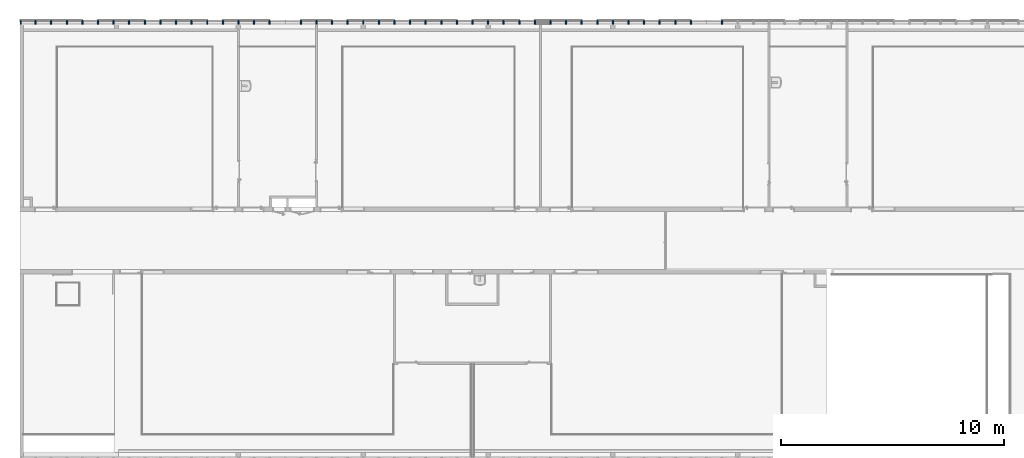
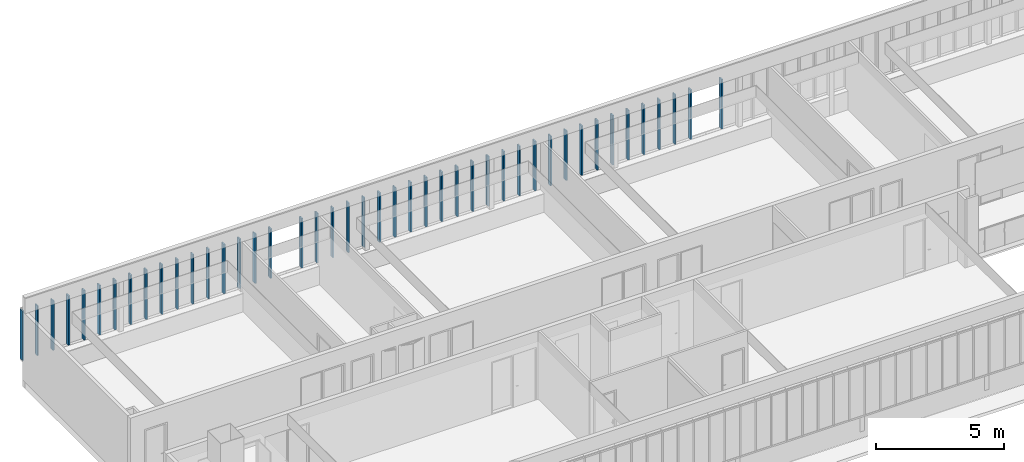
# One storey, part 4 of 87: 44 members, 1 element without a shape of its own.
"""IFC2X3 building model written with IfcOpenShell, lengths in centimetres."""

from ifc_helpers import new_model, entity, si_unit, converted_unit, derived_unit, direction, frame, origin, place, context, subcontext, project, spatial, polyline, outline, extrude, source, transform, mapped, material, type_object, type_shapes, element, aggregate, save


model = new_model("IFC2X3")

# Units and contexts
model_context = context("Model", 3, precision=0.001, world=origin(), true_north=direction((6.12303176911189e-17, 1.0)))
body_context = subcontext(model_context, "Body", "Model", "MODEL_VIEW")
ifc_project = project(units=[si_unit("LENGTHUNIT", "METRE", prefix="CENTI"), si_unit("AREAUNIT", "SQUARE_METRE"), si_unit("VOLUMEUNIT", "CUBIC_METRE"), converted_unit("PLANEANGLEUNIT", "DEGREE", entity("IfcRatioMeasure", 0.0174532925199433), si_unit("PLANEANGLEUNIT", "RADIAN"), dimensions=[0, 0, 0, 0, 0, 0, 0]), si_unit("MASSUNIT", "GRAM", prefix="KILO"), derived_unit("MASSDENSITYUNIT", [(si_unit("MASSUNIT", "GRAM", prefix="KILO"), 1), (si_unit("LENGTHUNIT", "METRE"), -3)]), si_unit("TIMEUNIT", "SECOND"), si_unit("FREQUENCYUNIT", "HERTZ"), si_unit("THERMODYNAMICTEMPERATUREUNIT", "DEGREE_CELSIUS"), derived_unit("THERMALTRANSMITTANCEUNIT", [(si_unit("MASSUNIT", "GRAM", prefix="KILO"), 1), (si_unit("THERMODYNAMICTEMPERATUREUNIT", "KELVIN"), -1), (si_unit("TIMEUNIT", "SECOND"), -3)]), derived_unit("VOLUMETRICFLOWRATEUNIT", [(si_unit("LENGTHUNIT", "METRE"), 3), (si_unit("TIMEUNIT", "SECOND"), -1)]), si_unit("ELECTRICCURRENTUNIT", "AMPERE"), si_unit("ELECTRICVOLTAGEUNIT", "VOLT"), si_unit("POWERUNIT", "WATT"), si_unit("FORCEUNIT", "NEWTON", prefix="KILO"), si_unit("ILLUMINANCEUNIT", "LUX"), si_unit("LUMINOUSFLUXUNIT", "LUMEN"), si_unit("LUMINOUSINTENSITYUNIT", "CANDELA"), derived_unit("USERDEFINED", [(si_unit("MASSUNIT", "GRAM", prefix="KILO"), -1), (si_unit("LENGTHUNIT", "METRE"), -2), (si_unit("TIMEUNIT", "SECOND"), 3), (si_unit("LUMINOUSFLUXUNIT", "LUMEN"), 1)]), derived_unit("LINEARVELOCITYUNIT", [(si_unit("LENGTHUNIT", "METRE"), 1), (si_unit("TIMEUNIT", "SECOND"), -1)]), si_unit("PRESSUREUNIT", "PASCAL"), derived_unit("USERDEFINED", [(si_unit("LENGTHUNIT", "METRE"), -2), (si_unit("MASSUNIT", "GRAM", prefix="KILO"), 1), (si_unit("TIMEUNIT", "SECOND"), -2)])], contexts=[model_context])

# Site, building, storey
site_placement = place(None, frame((-2781.94577612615, 7442.24238424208, 0.0)))
site = spatial("IfcSite", under=ifc_project, at=site_placement, Name="Default", CompositionType="ELEMENT")
building_placement = place(site_placement, origin())
building = spatial("IfcBuilding", under=site, at=building_placement, CompositionType="ELEMENT")
storey_placement = place(building_placement, frame((0.0, 0.0, 774.0)))
storey = spatial("IfcBuildingStorey", under=building, at=storey_placement, Name="TR - N02 - ARCH", CompositionType="ELEMENT", Elevation=774.0)

# Curtain wall, members
curtain_wall_type = type_object("IfcCurtainWallType", Name="Mur-rideau:07 - mur rideau trame 70cm", PredefinedType="NOTDEFINED")
curtain_wall_placement = place(storey_placement, frame((0.0, 0.0, -774.0)))
curtain_wall = element("IfcCurtainWall", 1, at=curtain_wall_placement, inside=storey, type_object=curtain_wall_type, Name="Mur-rideau:07 - mur rideau trame 70cm", ObjectType="Mur-rideau:07 - mur rideau trame 70cm")
ifc_material = material(Name="Aluminium")
member_type_1 = type_object("IfcMemberType", Name="150 x 25mm Détails", PredefinedType="MEMBER")
shared_shape_1 = source(origin(), body_context, "Body", "SweptSolid", [
    extrude(outline(polyline([(-5.6666666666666, -3.24999999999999), (-3.66666666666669, -3.24999999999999), (-3.66666666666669, -0.868749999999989), (-0.166666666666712, -0.868749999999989), (-0.166666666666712, -3.25000000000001), (13.3333333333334, -3.25000000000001), (13.3333333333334, 3.24999999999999), (-0.16666666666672, 3.24999999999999), (-0.16666666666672, 0.868749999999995), (-3.66666666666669, 0.868749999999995), (-3.66666666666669, 3.25), (-5.6666666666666, 3.25), (-5.6666666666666, -3.24999999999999)])), frame((-3.24999999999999, -1.96666666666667, -236.0), z_axis=(0.0, 0.0, 1.0), x_axis=(0.0, -1.0, 0.0)), (0.0, 0.0, 1.0), 236.0),
])
type_shapes(member_type_1, [shared_shape_1])
member_1_placement = place(storey_placement, frame((-8409.49987766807, 26.200000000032, 90.0), z_axis=(0.0, 0.0, -1.0), x_axis=(-1.0, 0.0, 0.0)))
member_1 = element("IfcMember", 2, at=member_1_placement, type_object=member_type_1, material=ifc_material, Name="Meneau rectangulaire:150 x 25mm Détails", ObjectType="Meneau rectangulaire:150 x 25mm Détails", context=body_context, shape_type="MappedRepresentation", body=[
    mapped(shared_shape_1, transform((0.0, 0.0, 0.0), scale=1.0)),
])
member_type_2 = type_object("IfcMemberType", Name="150 x 25mm Détails", PredefinedType="MEMBER")
shared_shape_2 = source(origin(), body_context, "Body", "SweptSolid", [
    extrude(outline(polyline([(-5.66666666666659, -3.24999999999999), (-3.66666666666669, -3.24999999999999), (-3.66666666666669, -0.86874999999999), (-0.166666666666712, -0.86874999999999), (-0.166666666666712, -3.25000000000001), (13.3333333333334, -3.25000000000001), (13.3333333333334, 3.24999999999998), (-0.166666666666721, 3.24999999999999), (-0.166666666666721, 0.868749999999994), (-3.66666666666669, 0.868749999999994), (-3.66666666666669, 3.25), (-5.66666666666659, 3.25), (-5.66666666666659, -3.24999999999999)])), frame((0.0, -1.96666666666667, -236.0), z_axis=(0.0, 0.0, 1.0), x_axis=(0.0, -1.0, 0.0)), (0.0, 0.0, 1.0), 236.0),
])
type_shapes(member_type_2, [shared_shape_2])
member_2_placement = place(storey_placement, frame((-5259.4998776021, 26.2000000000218, 90.0), z_axis=(0.0, 0.0, -1.0), x_axis=(-1.0, 0.0, 0.0)))
member_2 = element("IfcMember", 3, at=member_2_placement, type_object=member_type_2, material=ifc_material, Name="Meneau rectangulaire:150 x 25mm Détails", ObjectType="Meneau rectangulaire:150 x 25mm Détails", context=body_context, shape_type="MappedRepresentation", body=[
    mapped(shared_shape_2, transform((0.0, 0.0, 0.0), scale=1.0)),
])
member_3_placement = place(storey_placement, frame((-5399.4998776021, 26.2000000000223, 90.0), z_axis=(0.0, 0.0, -1.0), x_axis=(-1.0, 0.0, 0.0)))
member_3 = element("IfcMember", 4, at=member_3_placement, type_object=member_type_2, material=ifc_material, Name="Meneau rectangulaire:150 x 25mm Détails", ObjectType="Meneau rectangulaire:150 x 25mm Détails", context=body_context, shape_type="MappedRepresentation", body=[
    mapped(shared_shape_2, transform((0.0, 0.0, 0.0), scale=1.0)),
])
member_4_placement = place(storey_placement, frame((-5469.4998776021, 26.2000000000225, 90.0), z_axis=(0.0, 0.0, -1.0), x_axis=(-1.0, 0.0, 0.0)))
member_4 = element("IfcMember", 5, at=member_4_placement, type_object=member_type_2, material=ifc_material, Name="Meneau rectangulaire:150 x 25mm Détails", ObjectType="Meneau rectangulaire:150 x 25mm Détails", context=body_context, shape_type="MappedRepresentation", body=[
    mapped(shared_shape_2, transform((0.0, 0.0, 0.0), scale=1.0)),
])
member_5_placement = place(storey_placement, frame((-5539.4998776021, 26.2000000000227, 90.0), z_axis=(0.0, 0.0, -1.0), x_axis=(-1.0, 0.0, 0.0)))
member_5 = element("IfcMember", 6, at=member_5_placement, type_object=member_type_2, material=ifc_material, Name="Meneau rectangulaire:150 x 25mm Détails", ObjectType="Meneau rectangulaire:150 x 25mm Détails", context=body_context, shape_type="MappedRepresentation", body=[
    mapped(shared_shape_2, transform((0.0, 0.0, 0.0), scale=1.0)),
])
member_6_placement = place(storey_placement, frame((-5609.4998776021, 26.200000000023, 90.0), z_axis=(0.0, 0.0, -1.0), x_axis=(-1.0, 0.0, 0.0)))
member_6 = element("IfcMember", 7, at=member_6_placement, type_object=member_type_2, material=ifc_material, Name="Meneau rectangulaire:150 x 25mm Détails", ObjectType="Meneau rectangulaire:150 x 25mm Détails", context=body_context, shape_type="MappedRepresentation", body=[
    mapped(shared_shape_2, transform((0.0, 0.0, 0.0), scale=1.0)),
])
member_7_placement = place(storey_placement, frame((-5679.49987760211, 26.2000000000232, 90.0), z_axis=(0.0, 0.0, -1.0), x_axis=(-1.0, 0.0, 0.0)))
member_7 = element("IfcMember", 8, at=member_7_placement, type_object=member_type_2, material=ifc_material, Name="Meneau rectangulaire:150 x 25mm Détails", ObjectType="Meneau rectangulaire:150 x 25mm Détails", context=body_context, shape_type="MappedRepresentation", body=[
    mapped(shared_shape_2, transform((0.0, 0.0, 0.0), scale=1.0)),
])
member_8_placement = place(storey_placement, frame((-5749.4998776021, 26.2000000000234, 90.0), z_axis=(0.0, 0.0, -1.0), x_axis=(-1.0, 0.0, 0.0)))
member_8 = element("IfcMember", 9, at=member_8_placement, type_object=member_type_2, material=ifc_material, Name="Meneau rectangulaire:150 x 25mm Détails", ObjectType="Meneau rectangulaire:150 x 25mm Détails", context=body_context, shape_type="MappedRepresentation", body=[
    mapped(shared_shape_2, transform((0.0, 0.0, 0.0), scale=1.0)),
])
member_9_placement = place(storey_placement, frame((-5819.4998776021, 26.2000000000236, 90.0), z_axis=(0.0, 0.0, -1.0), x_axis=(-1.0, 0.0, 0.0)))
member_9 = element("IfcMember", 10, at=member_9_placement, type_object=member_type_2, material=ifc_material, Name="Meneau rectangulaire:150 x 25mm Détails", ObjectType="Meneau rectangulaire:150 x 25mm Détails", context=body_context, shape_type="MappedRepresentation", body=[
    mapped(shared_shape_2, transform((0.0, 0.0, 0.0), scale=1.0)),
])
member_10_placement = place(storey_placement, frame((-5889.4998776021, 26.2000000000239, 90.0), z_axis=(0.0, 0.0, -1.0), x_axis=(-1.0, 0.0, 0.0)))
member_10 = element("IfcMember", 11, at=member_10_placement, type_object=member_type_2, material=ifc_material, Name="Meneau rectangulaire:150 x 25mm Détails", ObjectType="Meneau rectangulaire:150 x 25mm Détails", context=body_context, shape_type="MappedRepresentation", body=[
    mapped(shared_shape_2, transform((0.0, 0.0, 0.0), scale=1.0)),
])
member_11_placement = place(storey_placement, frame((-5959.4998776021, 26.2000000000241, 90.0), z_axis=(0.0, 0.0, -1.0), x_axis=(-1.0, 0.0, 0.0)))
member_11 = element("IfcMember", 12, at=member_11_placement, type_object=member_type_2, material=ifc_material, Name="Meneau rectangulaire:150 x 25mm Détails", ObjectType="Meneau rectangulaire:150 x 25mm Détails", context=body_context, shape_type="MappedRepresentation", body=[
    mapped(shared_shape_2, transform((0.0, 0.0, 0.0), scale=1.0)),
])
member_12_placement = place(storey_placement, frame((-6029.49987760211, 26.2000000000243, 90.0), z_axis=(0.0, 0.0, -1.0), x_axis=(-1.0, 0.0, 0.0)))
member_12 = element("IfcMember", 13, at=member_12_placement, type_object=member_type_2, material=ifc_material, Name="Meneau rectangulaire:150 x 25mm Détails", ObjectType="Meneau rectangulaire:150 x 25mm Détails", context=body_context, shape_type="MappedRepresentation", body=[
    mapped(shared_shape_2, transform((0.0, 0.0, 0.0), scale=1.0)),
])
member_13_placement = place(storey_placement, frame((-6099.4998776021, 26.2000000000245, 90.0), z_axis=(0.0, 0.0, -1.0), x_axis=(-1.0, 0.0, 0.0)))
member_13 = element("IfcMember", 14, at=member_13_placement, type_object=member_type_2, material=ifc_material, Name="Meneau rectangulaire:150 x 25mm Détails", ObjectType="Meneau rectangulaire:150 x 25mm Détails", context=body_context, shape_type="MappedRepresentation", body=[
    mapped(shared_shape_2, transform((0.0, 0.0, 0.0), scale=1.0)),
])
member_14_placement = place(storey_placement, frame((-6169.4998776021, 26.2000000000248, 90.0), z_axis=(0.0, 0.0, -1.0), x_axis=(-1.0, 0.0, 0.0)))
member_14 = element("IfcMember", 15, at=member_14_placement, type_object=member_type_2, material=ifc_material, Name="Meneau rectangulaire:150 x 25mm Détails", ObjectType="Meneau rectangulaire:150 x 25mm Détails", context=body_context, shape_type="MappedRepresentation", body=[
    mapped(shared_shape_2, transform((0.0, 0.0, 0.0), scale=1.0)),
])
member_15_placement = place(storey_placement, frame((-6239.49987760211, 26.200000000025, 90.0), z_axis=(0.0, 0.0, -1.0), x_axis=(-1.0, 0.0, 0.0)))
member_15 = element("IfcMember", 16, at=member_15_placement, type_object=member_type_2, material=ifc_material, Name="Meneau rectangulaire:150 x 25mm Détails", ObjectType="Meneau rectangulaire:150 x 25mm Détails", context=body_context, shape_type="MappedRepresentation", body=[
    mapped(shared_shape_2, transform((0.0, 0.0, 0.0), scale=1.0)),
])
member_16_placement = place(storey_placement, frame((-6309.49987760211, 26.2000000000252, 90.0), z_axis=(0.0, 0.0, -1.0), x_axis=(-1.0, 0.0, 0.0)))
member_16 = element("IfcMember", 17, at=member_16_placement, type_object=member_type_2, material=ifc_material, Name="Meneau rectangulaire:150 x 25mm Détails", ObjectType="Meneau rectangulaire:150 x 25mm Détails", context=body_context, shape_type="MappedRepresentation", body=[
    mapped(shared_shape_2, transform((0.0, 0.0, 0.0), scale=1.0)),
])
member_17_placement = place(storey_placement, frame((-6379.49987760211, 26.2000000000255, 90.0), z_axis=(0.0, 0.0, -1.0), x_axis=(-1.0, 0.0, 0.0)))
member_17 = element("IfcMember", 18, at=member_17_placement, type_object=member_type_2, material=ifc_material, Name="Meneau rectangulaire:150 x 25mm Détails", ObjectType="Meneau rectangulaire:150 x 25mm Détails", context=body_context, shape_type="MappedRepresentation", body=[
    mapped(shared_shape_2, transform((0.0, 0.0, 0.0), scale=1.0)),
])
member_18_placement = place(storey_placement, frame((-6449.49987760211, 26.2000000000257, 90.0), z_axis=(0.0, 0.0, -1.0), x_axis=(-1.0, 0.0, 0.0)))
member_18 = element("IfcMember", 19, at=member_18_placement, type_object=member_type_2, material=ifc_material, Name="Meneau rectangulaire:150 x 25mm Détails", ObjectType="Meneau rectangulaire:150 x 25mm Détails", context=body_context, shape_type="MappedRepresentation", body=[
    mapped(shared_shape_2, transform((0.0, 0.0, 0.0), scale=1.0)),
])
member_19_placement = place(storey_placement, frame((-6519.49987760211, 26.2000000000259, 90.0), z_axis=(0.0, 0.0, -1.0), x_axis=(-1.0, 0.0, 0.0)))
member_19 = element("IfcMember", 20, at=member_19_placement, type_object=member_type_2, material=ifc_material, Name="Meneau rectangulaire:150 x 25mm Détails", ObjectType="Meneau rectangulaire:150 x 25mm Détails", context=body_context, shape_type="MappedRepresentation", body=[
    mapped(shared_shape_2, transform((0.0, 0.0, 0.0), scale=1.0)),
])
member_20_placement = place(storey_placement, frame((-6589.49987760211, 26.2000000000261, 90.0), z_axis=(0.0, 0.0, -1.0), x_axis=(-1.0, 0.0, 0.0)))
member_20 = element("IfcMember", 21, at=member_20_placement, type_object=member_type_2, material=ifc_material, Name="Meneau rectangulaire:150 x 25mm Détails", ObjectType="Meneau rectangulaire:150 x 25mm Détails", context=body_context, shape_type="MappedRepresentation", body=[
    mapped(shared_shape_2, transform((0.0, 0.0, 0.0), scale=1.0)),
])
member_21_placement = place(storey_placement, frame((-6659.49987760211, 26.2000000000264, 90.0), z_axis=(0.0, 0.0, -1.0), x_axis=(-1.0, 0.0, 0.0)))
member_21 = element("IfcMember", 22, at=member_21_placement, type_object=member_type_2, material=ifc_material, Name="Meneau rectangulaire:150 x 25mm Détails", ObjectType="Meneau rectangulaire:150 x 25mm Détails", context=body_context, shape_type="MappedRepresentation", body=[
    mapped(shared_shape_2, transform((0.0, 0.0, 0.0), scale=1.0)),
])
member_22_placement = place(storey_placement, frame((-6729.49987760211, 26.2000000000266, 90.0), z_axis=(0.0, 0.0, -1.0), x_axis=(-1.0, 0.0, 0.0)))
member_22 = element("IfcMember", 23, at=member_22_placement, type_object=member_type_2, material=ifc_material, Name="Meneau rectangulaire:150 x 25mm Détails", ObjectType="Meneau rectangulaire:150 x 25mm Détails", context=body_context, shape_type="MappedRepresentation", body=[
    mapped(shared_shape_2, transform((0.0, 0.0, 0.0), scale=1.0)),
])
member_23_placement = place(storey_placement, frame((-6799.49987760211, 26.2000000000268, 90.0), z_axis=(0.0, 0.0, -1.0), x_axis=(-1.0, 0.0, 0.0)))
member_23 = element("IfcMember", 24, at=member_23_placement, type_object=member_type_2, material=ifc_material, Name="Meneau rectangulaire:150 x 25mm Détails", ObjectType="Meneau rectangulaire:150 x 25mm Détails", context=body_context, shape_type="MappedRepresentation", body=[
    mapped(shared_shape_2, transform((0.0, 0.0, 0.0), scale=1.0)),
])
member_24_placement = place(storey_placement, frame((-6869.49987760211, 26.200000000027, 90.0), z_axis=(0.0, 0.0, -1.0), x_axis=(-1.0, 0.0, 0.0)))
member_24 = element("IfcMember", 25, at=member_24_placement, type_object=member_type_2, material=ifc_material, Name="Meneau rectangulaire:150 x 25mm Détails", ObjectType="Meneau rectangulaire:150 x 25mm Détails", context=body_context, shape_type="MappedRepresentation", body=[
    mapped(shared_shape_2, transform((0.0, 0.0, 0.0), scale=1.0)),
])
member_25_placement = place(storey_placement, frame((-6939.49987760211, 26.2000000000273, 90.0), z_axis=(0.0, 0.0, -1.0), x_axis=(-1.0, 0.0, 0.0)))
member_25 = element("IfcMember", 26, at=member_25_placement, type_object=member_type_2, material=ifc_material, Name="Meneau rectangulaire:150 x 25mm Détails", ObjectType="Meneau rectangulaire:150 x 25mm Détails", context=body_context, shape_type="MappedRepresentation", body=[
    mapped(shared_shape_2, transform((0.0, 0.0, 0.0), scale=1.0)),
])
member_26_placement = place(storey_placement, frame((-7009.49987760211, 26.2000000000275, 90.0), z_axis=(0.0, 0.0, -1.0), x_axis=(-1.0, 0.0, 0.0)))
member_26 = element("IfcMember", 27, at=member_26_placement, type_object=member_type_2, material=ifc_material, Name="Meneau rectangulaire:150 x 25mm Détails", ObjectType="Meneau rectangulaire:150 x 25mm Détails", context=body_context, shape_type="MappedRepresentation", body=[
    mapped(shared_shape_2, transform((0.0, 0.0, 0.0), scale=1.0)),
])
member_27_placement = place(storey_placement, frame((-7079.49987760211, 26.2000000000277, 90.0), z_axis=(0.0, 0.0, -1.0), x_axis=(-1.0, 0.0, 0.0)))
member_27 = element("IfcMember", 28, at=member_27_placement, type_object=member_type_2, material=ifc_material, Name="Meneau rectangulaire:150 x 25mm Détails", ObjectType="Meneau rectangulaire:150 x 25mm Détails", context=body_context, shape_type="MappedRepresentation", body=[
    mapped(shared_shape_2, transform((0.0, 0.0, 0.0), scale=1.0)),
])
member_28_placement = place(storey_placement, frame((-7149.49987760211, 26.2000000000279, 90.0), z_axis=(0.0, 0.0, -1.0), x_axis=(-1.0, 0.0, 0.0)))
member_28 = element("IfcMember", 29, at=member_28_placement, type_object=member_type_2, material=ifc_material, Name="Meneau rectangulaire:150 x 25mm Détails", ObjectType="Meneau rectangulaire:150 x 25mm Détails", context=body_context, shape_type="MappedRepresentation", body=[
    mapped(shared_shape_2, transform((0.0, 0.0, 0.0), scale=1.0)),
])
member_29_placement = place(storey_placement, frame((-7359.49987760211, 26.2000000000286, 90.0), z_axis=(0.0, 0.0, -1.0), x_axis=(-1.0, 0.0, 0.0)))
member_29 = element("IfcMember", 30, at=member_29_placement, type_object=member_type_2, material=ifc_material, Name="Meneau rectangulaire:150 x 25mm Détails", ObjectType="Meneau rectangulaire:150 x 25mm Détails", context=body_context, shape_type="MappedRepresentation", body=[
    mapped(shared_shape_2, transform((0.0, 0.0, 0.0), scale=1.0)),
])
member_30_placement = place(storey_placement, frame((-7429.49987760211, 26.2000000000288, 90.0), z_axis=(0.0, 0.0, -1.0), x_axis=(-1.0, 0.0, 0.0)))
member_30 = element("IfcMember", 31, at=member_30_placement, type_object=member_type_2, material=ifc_material, Name="Meneau rectangulaire:150 x 25mm Détails", ObjectType="Meneau rectangulaire:150 x 25mm Détails", context=body_context, shape_type="MappedRepresentation", body=[
    mapped(shared_shape_2, transform((0.0, 0.0, 0.0), scale=1.0)),
])
member_31_placement = place(storey_placement, frame((-7499.49987760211, 26.2000000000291, 90.0), z_axis=(0.0, 0.0, -1.0), x_axis=(-1.0, 0.0, 0.0)))
member_31 = element("IfcMember", 32, at=member_31_placement, type_object=member_type_2, material=ifc_material, Name="Meneau rectangulaire:150 x 25mm Détails", ObjectType="Meneau rectangulaire:150 x 25mm Détails", context=body_context, shape_type="MappedRepresentation", body=[
    mapped(shared_shape_2, transform((0.0, 0.0, 0.0), scale=1.0)),
])
member_32_placement = place(storey_placement, frame((-7569.49987760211, 26.2000000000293, 90.0), z_axis=(0.0, 0.0, -1.0), x_axis=(-1.0, 0.0, 0.0)))
member_32 = element("IfcMember", 33, at=member_32_placement, type_object=member_type_2, material=ifc_material, Name="Meneau rectangulaire:150 x 25mm Détails", ObjectType="Meneau rectangulaire:150 x 25mm Détails", context=body_context, shape_type="MappedRepresentation", body=[
    mapped(shared_shape_2, transform((0.0, 0.0, 0.0), scale=1.0)),
])
member_33_placement = place(storey_placement, frame((-7639.49987760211, 26.2000000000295, 90.0), z_axis=(0.0, 0.0, -1.0), x_axis=(-1.0, 0.0, 0.0)))
member_33 = element("IfcMember", 34, at=member_33_placement, type_object=member_type_2, material=ifc_material, Name="Meneau rectangulaire:150 x 25mm Détails", ObjectType="Meneau rectangulaire:150 x 25mm Détails", context=body_context, shape_type="MappedRepresentation", body=[
    mapped(shared_shape_2, transform((0.0, 0.0, 0.0), scale=1.0)),
])
member_34_placement = place(storey_placement, frame((-7709.49987760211, 26.2000000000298, 90.0), z_axis=(0.0, 0.0, -1.0), x_axis=(-1.0, 0.0, 0.0)))
member_34 = element("IfcMember", 35, at=member_34_placement, type_object=member_type_2, material=ifc_material, Name="Meneau rectangulaire:150 x 25mm Détails", ObjectType="Meneau rectangulaire:150 x 25mm Détails", context=body_context, shape_type="MappedRepresentation", body=[
    mapped(shared_shape_2, transform((0.0, 0.0, 0.0), scale=1.0)),
])
member_35_placement = place(storey_placement, frame((-7779.49987760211, 26.20000000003, 90.0), z_axis=(0.0, 0.0, -1.0), x_axis=(-1.0, 0.0, 0.0)))
member_35 = element("IfcMember", 36, at=member_35_placement, type_object=member_type_2, material=ifc_material, Name="Meneau rectangulaire:150 x 25mm Détails", ObjectType="Meneau rectangulaire:150 x 25mm Détails", context=body_context, shape_type="MappedRepresentation", body=[
    mapped(shared_shape_2, transform((0.0, 0.0, 0.0), scale=1.0)),
])
member_36_placement = place(storey_placement, frame((-7849.49987760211, 26.2000000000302, 90.0), z_axis=(0.0, 0.0, -1.0), x_axis=(-1.0, 0.0, 0.0)))
member_36 = element("IfcMember", 37, at=member_36_placement, type_object=member_type_2, material=ifc_material, Name="Meneau rectangulaire:150 x 25mm Détails", ObjectType="Meneau rectangulaire:150 x 25mm Détails", context=body_context, shape_type="MappedRepresentation", body=[
    mapped(shared_shape_2, transform((0.0, 0.0, 0.0), scale=1.0)),
])
member_37_placement = place(storey_placement, frame((-7919.49987760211, 26.2000000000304, 90.0), z_axis=(0.0, 0.0, -1.0), x_axis=(-1.0, 0.0, 0.0)))
member_37 = element("IfcMember", 38, at=member_37_placement, type_object=member_type_2, material=ifc_material, Name="Meneau rectangulaire:150 x 25mm Détails", ObjectType="Meneau rectangulaire:150 x 25mm Détails", context=body_context, shape_type="MappedRepresentation", body=[
    mapped(shared_shape_2, transform((0.0, 0.0, 0.0), scale=1.0)),
])
member_38_placement = place(storey_placement, frame((-7989.4998776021, 26.2000000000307, 90.0), z_axis=(0.0, 0.0, -1.0), x_axis=(-1.0, 0.0, 0.0)))
member_38 = element("IfcMember", 39, at=member_38_placement, type_object=member_type_2, material=ifc_material, Name="Meneau rectangulaire:150 x 25mm Détails", ObjectType="Meneau rectangulaire:150 x 25mm Détails", context=body_context, shape_type="MappedRepresentation", body=[
    mapped(shared_shape_2, transform((0.0, 0.0, 0.0), scale=1.0)),
])
member_39_placement = place(storey_placement, frame((-8059.4998776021, 26.2000000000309, 90.0), z_axis=(0.0, 0.0, -1.0), x_axis=(-1.0, 0.0, 0.0)))
member_39 = element("IfcMember", 40, at=member_39_placement, type_object=member_type_2, material=ifc_material, Name="Meneau rectangulaire:150 x 25mm Détails", ObjectType="Meneau rectangulaire:150 x 25mm Détails", context=body_context, shape_type="MappedRepresentation", body=[
    mapped(shared_shape_2, transform((0.0, 0.0, 0.0), scale=1.0)),
])
member_40_placement = place(storey_placement, frame((-8129.4998776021, 26.2000000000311, 90.0), z_axis=(0.0, 0.0, -1.0), x_axis=(-1.0, 0.0, 0.0)))
member_40 = element("IfcMember", 41, at=member_40_placement, type_object=member_type_2, material=ifc_material, Name="Meneau rectangulaire:150 x 25mm Détails", ObjectType="Meneau rectangulaire:150 x 25mm Détails", context=body_context, shape_type="MappedRepresentation", body=[
    mapped(shared_shape_2, transform((0.0, 0.0, 0.0), scale=1.0)),
])
member_41_placement = place(storey_placement, frame((-8199.4998776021, 26.2000000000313, 90.0), z_axis=(0.0, 0.0, -1.0), x_axis=(-1.0, 0.0, 0.0)))
member_41 = element("IfcMember", 42, at=member_41_placement, type_object=member_type_2, material=ifc_material, Name="Meneau rectangulaire:150 x 25mm Détails", ObjectType="Meneau rectangulaire:150 x 25mm Détails", context=body_context, shape_type="MappedRepresentation", body=[
    mapped(shared_shape_2, transform((0.0, 0.0, 0.0), scale=1.0)),
])
member_42_placement = place(storey_placement, frame((-8269.4998776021, 26.2000000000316, 90.0), z_axis=(0.0, 0.0, -1.0), x_axis=(-1.0, 0.0, 0.0)))
member_42 = element("IfcMember", 43, at=member_42_placement, type_object=member_type_2, material=ifc_material, Name="Meneau rectangulaire:150 x 25mm Détails", ObjectType="Meneau rectangulaire:150 x 25mm Détails", context=body_context, shape_type="MappedRepresentation", body=[
    mapped(shared_shape_2, transform((0.0, 0.0, 0.0), scale=1.0)),
])
member_43_placement = place(storey_placement, frame((-8339.4998776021, 26.2000000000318, 90.0), z_axis=(0.0, 0.0, -1.0), x_axis=(-1.0, 0.0, 0.0)))
member_43 = element("IfcMember", 44, at=member_43_placement, type_object=member_type_2, material=ifc_material, Name="Meneau rectangulaire:150 x 25mm Détails", ObjectType="Meneau rectangulaire:150 x 25mm Détails", context=body_context, shape_type="MappedRepresentation", body=[
    mapped(shared_shape_2, transform((0.0, 0.0, 0.0), scale=1.0)),
])
member_44_placement = place(storey_placement, frame((-7289.49987760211, 26.2000000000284, 90.0), z_axis=(0.0, 0.0, -1.0), x_axis=(-1.0, 0.0, 0.0)))
member_44 = element("IfcMember", 45, at=member_44_placement, type_object=member_type_2, material=ifc_material, Name="Meneau rectangulaire:150 x 25mm Détails", ObjectType="Meneau rectangulaire:150 x 25mm Détails", context=body_context, shape_type="MappedRepresentation", body=[
    mapped(shared_shape_2, transform((0.0, 0.0, 0.0), scale=1.0)),
])
aggregate(curtain_wall, [member_1, member_2, member_3, member_4, member_5, member_6, member_7, member_8, member_9, member_10, member_11, member_12, member_13, member_14, member_15, member_16, member_17, member_18, member_19, member_20, member_21, member_22, member_23, member_24, member_25, member_26, member_27, member_28, member_29, member_30, member_31, member_32, member_33, member_34, member_35, member_36, member_37, member_38, member_39, member_40, member_41, member_42, member_43, member_44])

save(model, "model.ifc")
